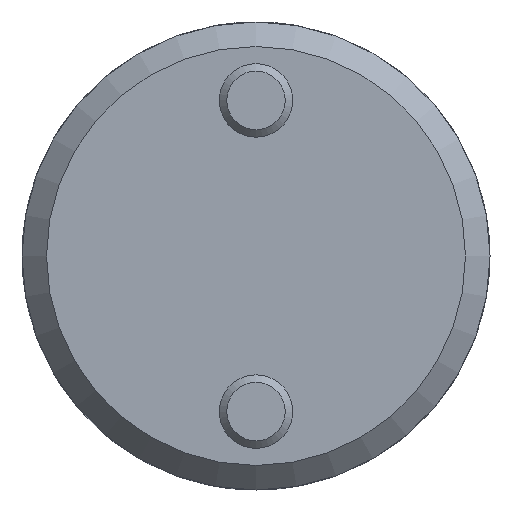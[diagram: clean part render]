
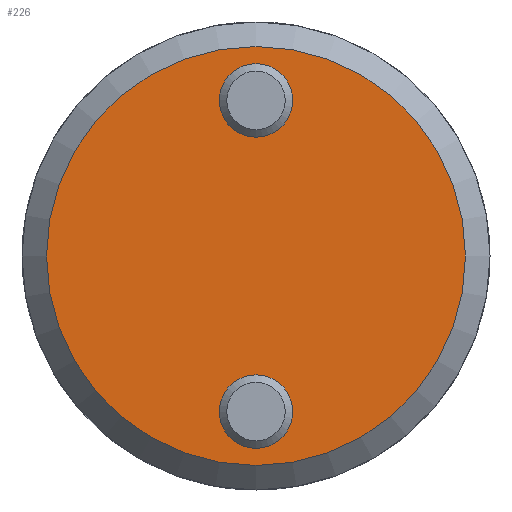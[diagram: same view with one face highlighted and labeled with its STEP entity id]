
A CAD part, front view. The second image highlights one B-rep face of the part: STEP entity #226.
In plain terms, the highlighted planar face has unit normal (0, -1, 0).
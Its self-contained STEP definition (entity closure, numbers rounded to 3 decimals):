
#226 = ADVANCED_FACE( '', ( #302, #303, #304 ), #305, .F. );
#302 = FACE_BOUND( '', #465, .T. );
#303 = FACE_BOUND( '', #466, .T. );
#304 = FACE_OUTER_BOUND( '', #467, .T. );
#305 = PLANE( '', #468 );
#465 = EDGE_LOOP( '', ( #674 ) );
#466 = EDGE_LOOP( '', ( #675 ) );
#467 = EDGE_LOOP( '', ( #676 ) );
#468 = AXIS2_PLACEMENT_3D( '', #677, #678, #679 );
#674 = ORIENTED_EDGE( '', *, *, #1060, .F. );
#675 = ORIENTED_EDGE( '', *, *, #1061, .F. );
#676 = ORIENTED_EDGE( '', *, *, #1062, .T. );
#677 = CARTESIAN_POINT( '', ( 8.55, 0., 0. ) );
#678 = DIRECTION( '', ( 0., 1., 0. ) );
#679 = DIRECTION( '', ( 0., 0., 1. ) );
#1060 = EDGE_CURVE( '', #1198, #1198, #1199, .T. );
#1061 = EDGE_CURVE( '', #1200, #1200, #1201, .T. );
#1062 = EDGE_CURVE( '', #1202, #1202, #1203, .T. );
#1198 = VERTEX_POINT( '', #1420 );
#1199 = CIRCLE( '', #1421, 1.5 );
#1200 = VERTEX_POINT( '', #1422 );
#1201 = CIRCLE( '', #1423, 1.5 );
#1202 = VERTEX_POINT( '', #1424 );
#1203 = CIRCLE( '', #1425, 8.55 );
#1420 = CARTESIAN_POINT( '', ( 0., 0., 4.85 ) );
#1421 = AXIS2_PLACEMENT_3D( '', #1740, #1741, #1742 );
#1422 = CARTESIAN_POINT( '', ( 0., 0., -7.85 ) );
#1423 = AXIS2_PLACEMENT_3D( '', #1743, #1744, #1745 );
#1424 = CARTESIAN_POINT( '', ( 0., 0., -8.55 ) );
#1425 = AXIS2_PLACEMENT_3D( '', #1746, #1747, #1748 );
#1740 = CARTESIAN_POINT( '', ( 0., 0., 6.35 ) );
#1741 = DIRECTION( '', ( 0., -1., 0. ) );
#1742 = DIRECTION( '', ( 0., 0., -1. ) );
#1743 = CARTESIAN_POINT( '', ( 0., 0., -6.35 ) );
#1744 = DIRECTION( '', ( 0., -1., 0. ) );
#1745 = DIRECTION( '', ( 0., 0., -1. ) );
#1746 = CARTESIAN_POINT( '', ( 0., 0., 0. ) );
#1747 = DIRECTION( '', ( 0., -1., 0. ) );
#1748 = DIRECTION( '', ( 0., 0., -1. ) );
